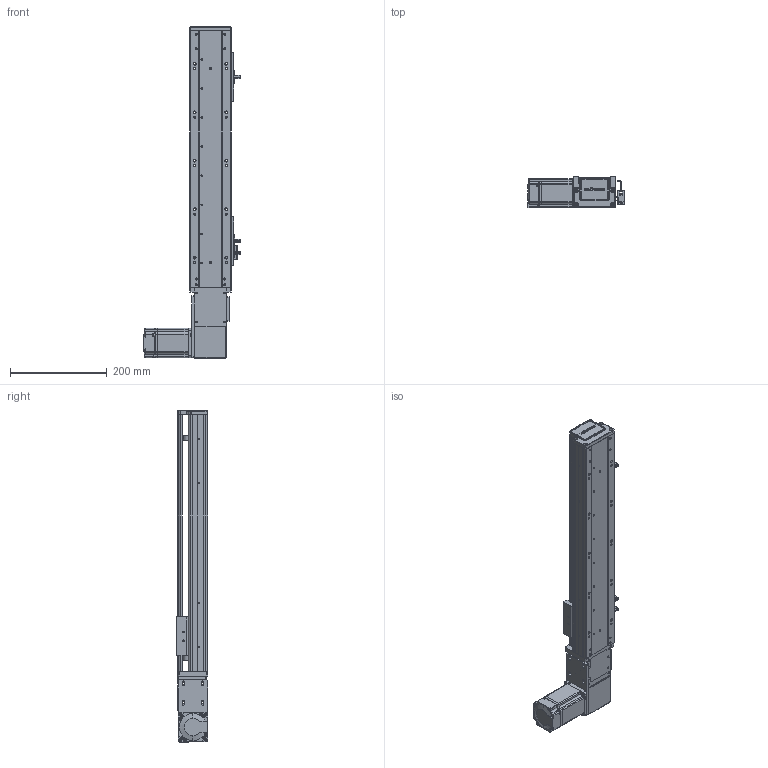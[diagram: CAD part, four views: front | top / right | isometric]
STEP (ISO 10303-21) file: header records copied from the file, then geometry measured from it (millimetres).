
FILE_DESCRIPTION (( 'STEP AP203' ), '1' );
FILE_NAME ('RY80-T-300-LK.SLDASM_350.step', '2021-03-01T01:57:59', ( '盈信电脑' ), ( '东莞市道滘镇水果街19号' ), 'SwSTEP 2.0', 'SolidWorks 2012', '' );
FILE_SCHEMA (( 'CONFIG_CONTROL_DESIGN' ));
Length unit declared in the file: millimetre
Products named in the file (19): RY80-T-300-LK倰第菁釱_350; 672嫖萇羲壽假蚾釱; RY80-T綴裔啣; RY80-T肮祭謫臏賑輸; RY80-T-300-LK倰第奻裔啣_350; RY80-T-300-LK.SLDASM_350; 侂狟200W萇儂; RY80-T萇儂假蚾啣; RY80-T肮祭謫俋欶; RY80-T-M4蹟翐; 滅袉蝶18-10; 1; RY80-T粣創揤踡輸; RY80-T翋肮祭謫裔啣; RY80-T肮祭湍揤輸1; RY80-T肮祭湍揤輸2; RY80俋离覜茼え; RY80-T-翋肮祭謫釱; 覜茼ん672
Assembly tree (24 placements, depth 3):
  RY80-T-300-LK.SLDASM_350
    RY80-T-300-LK倰第菁釱_350
    RY80-T肮祭謫臏賑輸
    RY80-T-300-LK倰第奻裔啣_350
    RY80-T綴裔啣
    672嫖萇羲壽假蚾釱  x2
    覜茼ん672  x3
    RY80俋离覜茼え
    RY80-T-翋肮祭謫釱
    RY80-T肮祭湍揤輸1
    RY80-T肮祭湍揤輸2
    RY80-T粣創揤踡輸
    RY80-T翋肮祭謫裔啣  x2
    滅袉蝶18-10  x2
    侂狟200W萇儂
      1
    RY80-T肮祭謫俋欶
    RY80-T萇儂假蚾啣
    RY80-T-M4蹟翐  x2
Bounding box: 198.7 x 65 x 685 mm (x, y, z)
Volume: 1336916.8 mm3; surface area: 530229 mm2
Topology: 23 solids, 23 shells, 2366 faces, 6504 edges, 4223 vertices
Faces by surface type: plane 1301, cylinder 862, cone 147, bspline 56
Entity records: 73373 total; most frequent: CARTESIAN_POINT 17329, ORIENTED_EDGE 11452, DIRECTION 10836, EDGE_CURVE 5726, VERTEX_POINT 3764, LINE 3614, VECTOR 3614, AXIS2_PLACEMENT_3D 3611
